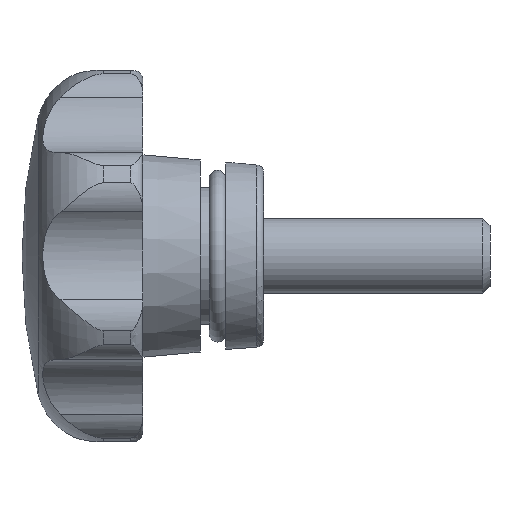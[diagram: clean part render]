
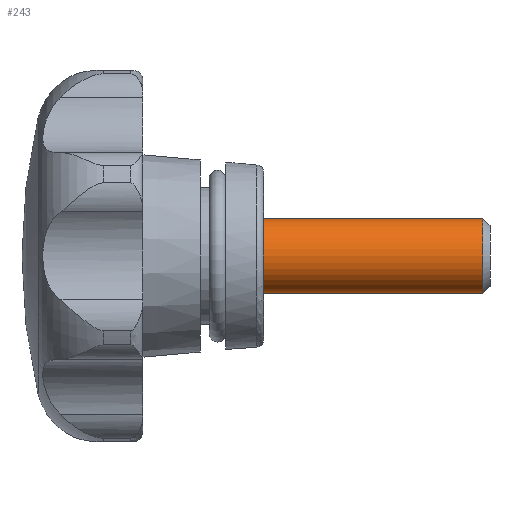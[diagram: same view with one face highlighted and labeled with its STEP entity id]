
A CAD part, left-side view. The second image highlights one B-rep face of the part: STEP entity #243.
In plain terms, the highlighted cylindrical face has radius 2.5 mm (diameter 5 mm), a full revolution.
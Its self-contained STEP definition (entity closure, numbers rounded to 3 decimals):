
#243 = ADVANCED_FACE( '', ( #515, #516 ), #517, .T. );
#515 = FACE_OUTER_BOUND( '', #911, .T. );
#516 = FACE_OUTER_BOUND( '', #912, .T. );
#517 = CYLINDRICAL_SURFACE( '', #913, 2.5 );
#911 = EDGE_LOOP( '', ( #1673 ) );
#912 = EDGE_LOOP( '', ( #1674 ) );
#913 = AXIS2_PLACEMENT_3D( '', #1675, #1676, #1677 );
#1673 = ORIENTED_EDGE( '', *, *, #2717, .F. );
#1674 = ORIENTED_EDGE( '', *, *, #2718, .T. );
#1675 = CARTESIAN_POINT( '', ( 0., -15., 0. ) );
#1676 = DIRECTION( '', ( 0., 1., 0. ) );
#1677 = DIRECTION( '', ( 0., 0., -1. ) );
#2717 = EDGE_CURVE( '', #3322, #3322, #3323, .T. );
#2718 = EDGE_CURVE( '', #3324, #3324, #3325, .T. );
#3322 = VERTEX_POINT( '', #4786 );
#3323 = CIRCLE( '', #4787, 2.5 );
#3324 = VERTEX_POINT( '', #4788 );
#3325 = CIRCLE( '', #4789, 2.5 );
#4786 = CARTESIAN_POINT( '', ( 0., -14.51, -2.5 ) );
#4787 = AXIS2_PLACEMENT_3D( '', #5728, #5729, #5730 );
#4788 = CARTESIAN_POINT( '', ( 0., 0., -2.5 ) );
#4789 = AXIS2_PLACEMENT_3D( '', #5731, #5732, #5733 );
#5728 = CARTESIAN_POINT( '', ( 0., -14.51, 0. ) );
#5729 = DIRECTION( '', ( 0., -1., 0. ) );
#5730 = DIRECTION( '', ( 0., 0., -1. ) );
#5731 = CARTESIAN_POINT( '', ( 0., 0., 0. ) );
#5732 = DIRECTION( '', ( 0., -1., 0. ) );
#5733 = DIRECTION( '', ( 0., 0., -1. ) );
